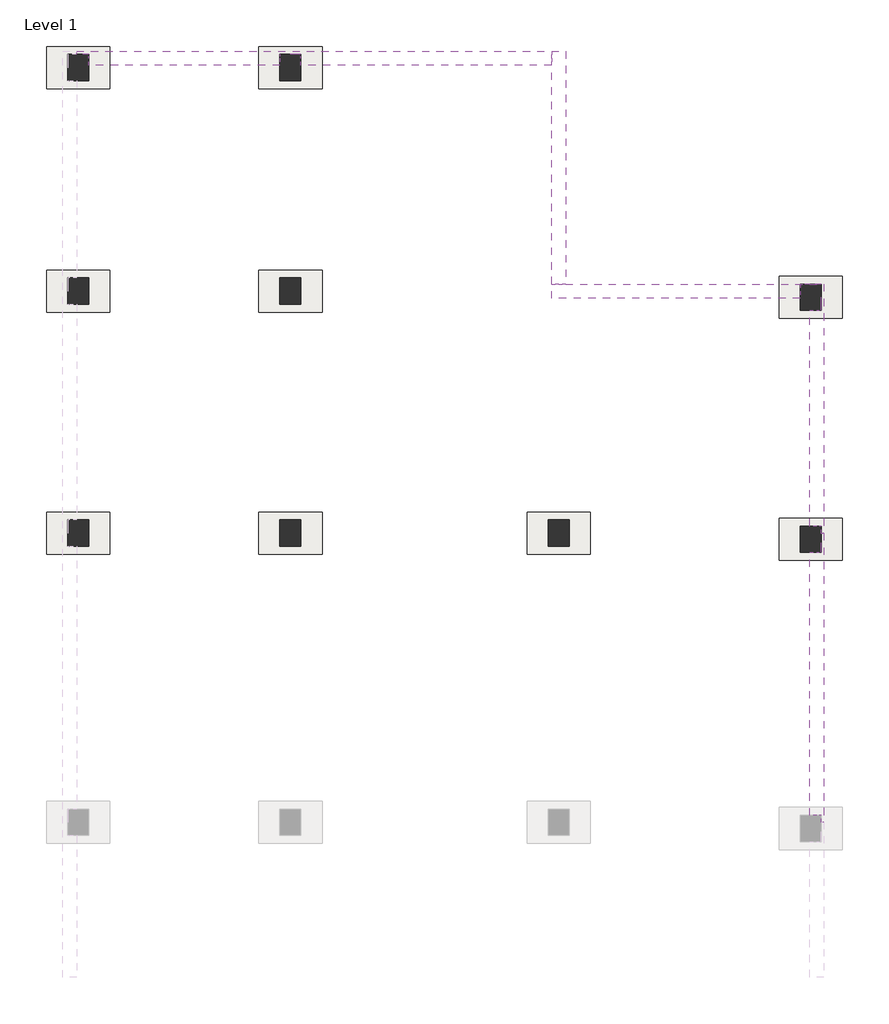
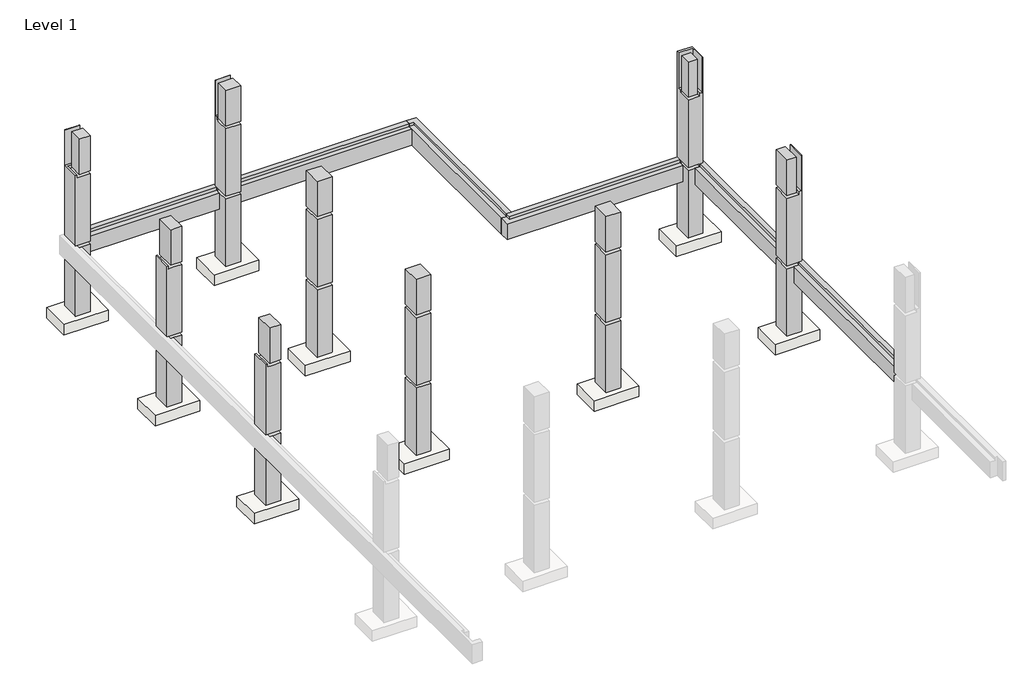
# One storey, part 2 of 2: 9 columns, 9 slabs, 5 beams.
"""IFC4 building model written with IfcOpenShell, lengths in millimetres."""

from ifc_helpers import new_model, si_unit, frame, origin, origin_with_axes, place, context, project, spatial, polyline, outline, extrude, faceted_brep, transform, mapped, element, save
from components import slab_05425d98

model = new_model("IFC4")

# Units and contexts
model_context = context("Model", 3, world=origin())
ifc_project = project(units=[si_unit("LENGTHUNIT", "METRE", prefix="MILLI")], contexts=[model_context])

# Site, building, storey
site = spatial("IfcSite", under=ifc_project)
building = spatial("IfcBuilding", under=site)
storey = spatial("IfcBuildingStorey", under=building, Name="Level 1", Elevation=0.0)

# Beams
placement = place(None, origin())
element("IfcBeam", 1, ObjectType="Concrete-Rectangular Beam : 16 x 32", at=placement, inside=storey, context=model_context, shape_type="Brep", body=[
    faceted_brep([(5678.6233565, -4041.2239291, 3048.0), (5678.6233565, 4340.7760709, 3048.0), (5601.20363, 4340.7760709, 3048.0), (5601.20363, 3780.7563444, 3048.0), (5475.4233565, 3780.7563444, 3048.0), (5475.4233565, -3839.2436556, 3048.0), (5601.20363, -3839.2436556, 3048.0), (5601.20363, -4041.2239291, 3048.0), (5678.6233565, -4041.2239291, 2235.2), (5678.6233565, 4340.7760709, 2235.2), (5601.20363, -4041.2239291, 2235.2), (5601.20363, -3839.2436556, 2235.2), (5272.2233565, -3839.2436556, 2235.2), (5272.2233565, 3780.7563444, 2235.2), (5601.20363, 3780.7563444, 2235.2), (5601.20363, 4340.7760709, 2235.2), (5272.2233565, -3839.2436556, 2921.0), (5272.2233565, 3780.7563444, 2921.0), (5475.4233565, 3780.7563444, 2921.0), (5475.4233565, -3839.2436556, 2921.0)], [[[0, 1, 2, 3, 4, 5, 6, 7]], [[1, 0, 8, 9]], [[9, 8, 10, 11, 12, 13, 14, 15]], [[13, 12, 16, 17]], [[1, 9, 15, 2]], [[8, 0, 7, 10]], [[14, 13, 17, 18, 4, 3]], [[12, 11, 6, 5, 19, 16]], [[19, 18, 17, 16]], [[18, 19, 5, 4]], [[14, 3, 2, 15]], [[6, 11, 10, 7]]]),
])
element("IfcBeam", 2, ObjectType="Concrete-Rectangular Beam : 16 x 32", at=placement, inside=storey, context=model_context, shape_type="Brep", body=[
    faceted_brep([(5678.6233565, 4340.7760709, 3048.0), (5678.6233565, 11554.3760709, 3048.0), (5272.2233565, 11554.3760709, 3048.0), (5272.2233565, 11553.1563444, 3048.0), (5601.20363, 11553.1563444, 3048.0), (5601.20363, 10791.1563444, 3048.0), (5475.4233565, 10791.1563444, 3048.0), (5475.4233565, 4542.7563444, 3048.0), (5601.20363, 4542.7563444, 3048.0), (5601.20363, 4340.7760709, 3048.0), (5678.6233565, 4340.7760709, 2235.2), (5678.6233565, 11554.3760709, 2235.2), (5272.2233565, 10791.1563444, 2235.2), (5601.20363, 10791.1563444, 2235.2), (5601.20363, 11553.1563444, 2235.2), (5272.2233565, 11553.1563444, 2235.2), (5272.2233565, 11554.3760709, 2235.2), (5601.20363, 4340.7760709, 2235.2), (5601.20363, 4542.7563444, 2235.2), (5272.2233565, 4542.7563444, 2235.2), (5272.2233565, 4542.7563444, 2921.0), (5272.2233565, 10791.1563444, 2921.0), (5475.4233565, 10791.1563444, 2921.0), (5475.4233565, 4542.7563444, 2921.0)], [[[0, 1, 2, 3, 4, 5, 6, 7, 8, 9]], [[0, 10, 11, 1]], [[12, 13, 14, 15, 16, 11, 10, 17, 18, 19]], [[12, 19, 20, 21]], [[10, 0, 9, 17]], [[13, 12, 21, 22, 6, 5]], [[19, 18, 8, 7, 23, 20]], [[23, 22, 21, 20]], [[22, 23, 7, 6]], [[2, 1, 11, 16]], [[13, 5, 4, 14]], [[14, 4, 3, 15]], [[2, 16, 15, 3]], [[8, 18, 17, 9]]]),
])
element("IfcBeam", 3, ObjectType="Concrete-Rectangular Beam : 16 x 32", at=placement, inside=storey, context=model_context, shape_type="Brep", body=[
    faceted_brep([(5272.2233565, 11553.1563444, 3048.0), (5272.2233565, 11554.3760709, 3048.0), (-1802.7923576, 11554.3760709, 3048.0), (-2005.9923576, 11554.3760709, 3048.0), (-2005.9923576, 11351.1760709, 3048.0), (4991.60363, 11351.1760709, 3048.0), (4991.60363, 11553.1563444, 3048.0), (5272.2233565, 11554.3760709, 2235.2), (-1802.7923576, 11554.3760709, 2235.2), (-2209.1923576, 11554.3760709, 2235.2), (-2209.1923576, 11554.3760709, 2921.0), (-2005.9923576, 11554.3760709, 2921.0), (4991.60363, 11553.1563444, 2235.2), (4991.60363, 11147.9760709, 2235.2), (-2209.1923576, 11147.9760709, 2235.2), (5272.2233565, 11553.1563444, 2235.2), (4991.60363, 11147.9760709, 2921.0), (-2209.1923576, 11147.9760709, 2921.0), (4991.60363, 11351.1760709, 2921.0), (-2005.9923576, 11351.1760709, 2921.0)], [[[0, 1, 2, 3, 4, 5, 6]], [[7, 8, 9, 10, 11, 3, 2, 1]], [[12, 13, 14, 9, 8, 7, 15]], [[14, 13, 16, 17]], [[7, 1, 0, 15]], [[13, 12, 6, 5, 18, 16]], [[9, 14, 17, 10]], [[18, 19, 11, 10, 17, 16]], [[19, 4, 3, 11]], [[4, 19, 18, 5]], [[6, 12, 15, 0]]]),
])
element("IfcBeam", 4, ObjectType="Concrete-Rectangular Beam : 16 x 32", at=placement, inside=storey, context=model_context, shape_type="Brep", body=[
    faceted_brep([(-1802.7923576, 18300.6217357, 3048.0), (-2209.1923576, 18300.6217357, 3048.0), (-2209.1923576, 18097.4217357, 3048.0), (-2005.9923576, 18097.4217357, 3048.0), (-2005.9923576, 11554.3760709, 3048.0), (-1802.7923576, 11554.3760709, 3048.0), (-1802.7923576, 11554.3760709, 2235.2), (-1802.7923576, 18300.6217357, 2235.2), (-2209.1923576, 11554.3760709, 2235.2), (-2209.1923576, 17894.2217357, 2235.2), (-2209.1923576, 18300.6217357, 2235.2), (-2209.1923576, 11554.3760709, 2921.0), (-2209.1923576, 17894.2217357, 2921.0), (-2209.1923576, 18097.4217357, 2921.0), (-2005.9923576, 11554.3760709, 2921.0), (-2005.9923576, 18097.4217357, 2921.0)], [[[0, 1, 2, 3, 4, 5]], [[5, 6, 7, 0]], [[6, 8, 9, 10, 7]], [[1, 10, 9, 8, 11, 12, 13, 2]], [[6, 5, 4, 14, 11, 8]], [[1, 0, 7, 10]], [[14, 15, 13, 12, 11]], [[15, 3, 2, 13]], [[3, 15, 14, 4]]]),
])
element("IfcBeam", 5, ObjectType="Concrete-Rectangular Beam : 16 x 32", at=placement, inside=storey, context=model_context, shape_type="Brep", body=[
    faceted_brep([(-15975.9923576, 18300.6217357, 3048.0), (-15975.9923576, 18210.7872446, 3048.0), (-15627.2047678, 18210.7872446, 3048.0), (-15627.2047678, 18097.4217357, 3048.0), (-10083.1923576, 18097.4217357, 3048.0), (-10083.1923576, 18210.7872446, 3048.0), (-9473.5923576, 18210.7872446, 3048.0), (-9473.5923576, 18097.4217357, 3048.0), (-2209.1923576, 18097.4217357, 3048.0), (-2209.1923576, 18300.6217357, 3048.0), (-2209.1923576, 18300.6217357, 2235.2), (-15975.9923576, 18300.6217357, 2235.2), (-15627.2047678, 17894.2217357, 2235.2), (-15627.2047678, 18210.7872446, 2235.2), (-15975.9923576, 18210.7872446, 2235.2), (-2209.1923576, 17894.2217357, 2235.2), (-9473.5923576, 17894.2217357, 2235.2), (-9473.5923576, 18210.7872446, 2235.2), (-10083.1923576, 18210.7872446, 2235.2), (-10083.1923576, 17894.2217357, 2235.2), (-10083.1923576, 17894.2217357, 2921.0), (-15627.2047678, 17894.2217357, 2921.0), (-15627.2047678, 18097.4217357, 2921.0), (-2209.1923576, 18097.4217357, 2921.0), (-2209.1923576, 17894.2217357, 2921.0), (-9473.5923576, 17894.2217357, 2921.0), (-9473.5923576, 18097.4217357, 2921.0), (-10083.1923576, 18097.4217357, 2921.0)], [[[0, 1, 2, 3, 4, 5, 6, 7, 8, 9]], [[9, 10, 11, 0]], [[12, 13, 14, 11, 10, 15, 16, 17, 18, 19]], [[12, 19, 20, 21]], [[0, 11, 14, 1]], [[13, 12, 21, 22, 3, 2]], [[10, 9, 8, 23, 24, 15]], [[17, 16, 25, 26, 7, 6]], [[19, 18, 5, 4, 27, 20]], [[16, 15, 24, 25]], [[27, 22, 21, 20]], [[22, 27, 4, 3]], [[23, 26, 25, 24]], [[26, 23, 8, 7]], [[13, 2, 1, 14]], [[5, 18, 17, 6]]]),
])

# Columns
element("IfcColumn", 6, ObjectType="Concrete-Rectangular-Column : 24 x 30", at=placement, inside=storey, context=model_context, shape_type="Brep", body=[
    faceted_brep([(-15627.2047678, 18210.7872446, 0.0), (-15627.2047678, 17448.7872446, 0.0), (-16236.8047678, 17448.7872446, 0.0), (-16236.8047678, 18210.7872446, 0.0), (-16236.8047678, 17448.7872446, 6096.0), (-16236.8047678, 18199.0217357, 6096.0), (-16236.8047678, 18199.0217357, 7620.0), (-16236.8047678, 18210.7872446, 7620.0), (-15627.2047678, 18210.7872446, 7620.0), (-16179.1923576, 18097.4217357, 2921.0), (-16179.1923576, 17448.7872446, 2921.0), (-15627.2047678, 17448.7872446, 2921.0), (-15627.2047678, 18097.4217357, 2921.0), (-16179.1923576, 18097.4217357, 3048.0), (-15627.2047678, 18097.4217357, 3048.0), (-15627.2047678, 17448.7872446, 3048.0), (-16179.1923576, 17448.7872446, 3048.0), (-16179.1923576, 18097.4217357, 5969.0), (-16179.1923576, 17448.7872446, 5969.0), (-15627.2047678, 17448.7872446, 5969.0), (-15627.2047678, 18097.4217357, 5969.0), (-16179.1923576, 18097.4217357, 6096.0), (-15627.2047678, 18097.4217357, 6096.0), (-16179.1923576, 17448.7872446, 6096.0), (-15627.2047678, 18199.0217357, 6096.0), (-15627.2047678, 18199.0217357, 7620.0)], [[[0, 1, 2, 3]], [[3, 2, 4, 5, 6, 7]], [[0, 3, 7, 8]], [[9, 10, 11, 12]], [[13, 14, 15, 16]], [[13, 9, 12, 14]], [[9, 13, 16, 10]], [[17, 18, 19, 20]], [[21, 17, 20, 22]], [[17, 21, 23, 18]], [[24, 25, 6, 5]], [[22, 24, 5, 4, 23, 21]], [[1, 0, 8, 25, 24, 22, 20, 19, 15, 14, 12, 11]], [[2, 1, 11, 10, 16, 15, 19, 18, 23, 4]], [[8, 7, 6, 25]]]),
    faceted_brep([(-15627.2047678, 17448.7872446, 7620.0), (-15627.2047678, 17448.7872446, 6096.0), (-15627.2047678, 17995.8217357, 6096.0), (-15627.2047678, 17995.8217357, 7620.0), (-16077.5923576, 17448.7872446, 7620.0), (-16077.5923576, 17448.7872446, 6096.0), (-16077.5923576, 17995.8217357, 7620.0), (-16077.5923576, 17995.8217357, 6096.0)], [[[0, 1, 2, 3]], [[1, 0, 4, 5]], [[0, 3, 6, 4]], [[2, 1, 5, 7]], [[3, 2, 7, 6]], [[5, 4, 6, 7]]]),
])
element("IfcColumn", 7, ObjectType="Concrete-Rectangular-Column : 24 x 30", at=placement, inside=storey, context=model_context, shape_type="Brep", body=[
    faceted_brep([(-15627.2047678, 11732.1760709, 0.0), (-15627.2047678, 10970.1760709, 0.0), (-16236.8047678, 10970.1760709, 0.0), (-16236.8047678, 11732.1760709, 0.0), (-16236.8047678, 10970.1760709, 2235.2), (-16236.8047678, 10970.1760709, 3048.0), (-16236.8047678, 10970.1760709, 5283.2), (-16236.8047678, 10970.1760709, 6096.0), (-16236.8047678, 11732.1760709, 6096.0), (-16236.8047678, 11732.1760709, 5283.2), (-16236.8047678, 11732.1760709, 3048.0), (-16236.8047678, 11732.1760709, 2235.2), (-16179.1923576, 11732.1760709, 2921.0), (-16179.1923576, 10970.1760709, 2921.0), (-15975.9923576, 10970.1760709, 2921.0), (-15627.2047678, 10970.1760709, 2921.0), (-15627.2047678, 11732.1760709, 2921.0), (-15975.9923576, 11732.1760709, 2921.0), (-16179.1923576, 10970.1760709, 3048.0), (-16179.1923576, 11732.1760709, 3048.0), (-15627.2047678, 11732.1760709, 3048.0), (-15627.2047678, 10970.1760709, 3048.0), (-16179.1923576, 11732.1760709, 5969.0), (-16179.1923576, 10970.1760709, 5969.0), (-15975.9923576, 10970.1760709, 5969.0), (-15627.2047678, 10970.1760709, 5969.0), (-15627.2047678, 11732.1760709, 5969.0), (-15975.9923576, 11732.1760709, 5969.0), (-16179.1923576, 11732.1760709, 6096.0), (-16179.1923576, 10970.1760709, 6096.0)], [[[0, 1, 2, 3]], [[3, 2, 4, 5, 6, 7, 8, 9, 10, 11]], [[12, 13, 14, 15, 16, 17]], [[18, 19, 20, 21]], [[13, 12, 19, 18]], [[1, 0, 16, 15]], [[22, 23, 24, 25, 26, 27]], [[23, 22, 28, 29]], [[21, 20, 26, 25]], [[7, 29, 28, 8]], [[2, 1, 15, 14, 13, 18, 21, 25, 24, 23, 29, 7, 6, 5, 4]], [[0, 3, 11, 10, 9, 8, 28, 22, 27, 26, 20, 19, 12, 17, 16]]]),
    faceted_brep([(-15627.2047678, 11732.1760709, 7620.0), (-15627.2047678, 10970.1760709, 7620.0), (-15627.2047678, 10970.1760709, 6096.0), (-15627.2047678, 11732.1760709, 6096.0), (-16077.5923576, 10970.1760709, 7620.0), (-16077.5923576, 10970.1760709, 6096.0), (-16077.5923576, 11732.1760709, 6096.0), (-16077.5923576, 11732.1760709, 7620.0)], [[[0, 1, 2, 3]], [[2, 1, 4, 5]], [[0, 3, 6, 7]], [[1, 0, 7, 4]], [[3, 2, 5, 6]], [[5, 4, 7, 6]]]),
])
element("IfcColumn", 8, ObjectType="Concrete-Rectangular-Column : 24 x 30", at=placement, inside=storey, context=model_context, shape_type="Brep", body=[
    faceted_brep([(-15627.2047678, 4721.7760709, 0.0), (-15627.2047678, 3959.7760709, 0.0), (-16236.8047678, 3959.7760709, 0.0), (-16236.8047678, 4721.7760709, 0.0), (-16236.8047678, 3959.7760709, 2235.2), (-16236.8047678, 3959.7760709, 3048.0), (-16236.8047678, 3959.7760709, 5283.2), (-16236.8047678, 3959.7760709, 6096.0), (-16236.8047678, 4721.7760709, 6096.0), (-16236.8047678, 4721.7760709, 5283.2), (-16236.8047678, 4721.7760709, 3048.0), (-16236.8047678, 4721.7760709, 2235.2), (-16179.1923576, 4721.7760709, 2921.0), (-16179.1923576, 3959.7760709, 2921.0), (-15975.9923576, 3959.7760709, 2921.0), (-15627.2047678, 3959.7760709, 2921.0), (-15627.2047678, 4721.7760709, 2921.0), (-15975.9923576, 4721.7760709, 2921.0), (-16179.1923576, 3959.7760709, 3048.0), (-16179.1923576, 4721.7760709, 3048.0), (-15627.2047678, 4721.7760709, 3048.0), (-15627.2047678, 3959.7760709, 3048.0), (-16179.1923576, 4721.7760709, 5969.0), (-16179.1923576, 3959.7760709, 5969.0), (-15975.9923576, 3959.7760709, 5969.0), (-15627.2047678, 3959.7760709, 5969.0), (-15627.2047678, 4721.7760709, 5969.0), (-15975.9923576, 4721.7760709, 5969.0), (-16179.1923576, 4721.7760709, 6096.0), (-16179.1923576, 3959.7760709, 6096.0)], [[[0, 1, 2, 3]], [[3, 2, 4, 5, 6, 7, 8, 9, 10, 11]], [[12, 13, 14, 15, 16, 17]], [[18, 19, 20, 21]], [[13, 12, 19, 18]], [[1, 0, 16, 15]], [[22, 23, 24, 25, 26, 27]], [[23, 22, 28, 29]], [[21, 20, 26, 25]], [[7, 29, 28, 8]], [[2, 1, 15, 14, 13, 18, 21, 25, 24, 23, 29, 7, 6, 5, 4]], [[0, 3, 11, 10, 9, 8, 28, 22, 27, 26, 20, 19, 12, 17, 16]]]),
    faceted_brep([(-15627.2047678, 4721.7760709, 7620.0), (-15627.2047678, 3959.7760709, 7620.0), (-15627.2047678, 3959.7760709, 6096.0), (-15627.2047678, 4721.7760709, 6096.0), (-16077.5923576, 3959.7760709, 7620.0), (-16077.5923576, 3959.7760709, 6096.0), (-16077.5923576, 4721.7760709, 6096.0), (-16077.5923576, 4721.7760709, 7620.0)], [[[0, 1, 2, 3]], [[2, 1, 4, 5]], [[0, 3, 6, 7]], [[1, 0, 7, 4]], [[3, 2, 5, 6]], [[5, 4, 7, 6]]]),
])
element("IfcColumn", 9, ObjectType="Concrete-Rectangular-Column : 24 x 30", at=placement, inside=storey, context=model_context, shape_type="Brep", body=[
    faceted_brep([(-9473.5923576, 18210.7872446, 0.0), (-9473.5923576, 17448.7872446, 0.0), (-10083.1923576, 17448.7872446, 0.0), (-10083.1923576, 18210.7872446, 0.0), (-10083.1923576, 18210.7872446, 2235.2), (-10083.1923576, 18210.7872446, 3048.0), (-10083.1923576, 18210.7872446, 5283.2), (-10083.1923576, 18210.7872446, 6096.0), (-10083.1923576, 18210.7872446, 7620.0), (-9473.5923576, 18210.7872446, 7620.0), (-9473.5923576, 18210.7872446, 6096.0), (-9473.5923576, 18210.7872446, 5283.2), (-9473.5923576, 18210.7872446, 3048.0), (-9473.5923576, 18210.7872446, 2235.2), (-9473.5923576, 18097.4217357, 2921.0), (-10083.1923576, 18097.4217357, 2921.0), (-10083.1923576, 17894.2217357, 2921.0), (-10083.1923576, 17448.7872446, 2921.0), (-9473.5923576, 17448.7872446, 2921.0), (-9473.5923576, 17894.2217357, 2921.0), (-10083.1923576, 18097.4217357, 3048.0), (-9473.5923576, 18097.4217357, 3048.0), (-9473.5923576, 17448.7872446, 3048.0), (-10083.1923576, 17448.7872446, 3048.0), (-9473.5923576, 18097.4217357, 5969.0), (-10083.1923576, 18097.4217357, 5969.0), (-10083.1923576, 17894.2217357, 5969.0), (-10083.1923576, 17448.7872446, 5969.0), (-9473.5923576, 17448.7872446, 5969.0), (-9473.5923576, 17894.2217357, 5969.0), (-9473.5923576, 18097.4217357, 6096.0), (-10083.1923576, 18097.4217357, 6096.0), (-10083.1923576, 18199.0217357, 6096.0), (-9473.5923576, 18199.0217357, 6096.0), (-9473.5923576, 18199.0217357, 7620.0), (-10083.1923576, 18199.0217357, 7620.0)], [[[0, 1, 2, 3]], [[0, 3, 4, 5, 6, 7, 8, 9, 10, 11, 12, 13]], [[14, 15, 16, 17, 18, 19]], [[20, 21, 22, 23]], [[15, 14, 21, 20]], [[2, 1, 18, 17]], [[24, 25, 26, 27, 28, 29]], [[25, 24, 30, 31]], [[23, 22, 28, 27]], [[32, 33, 34, 35]], [[33, 32, 31, 30]], [[1, 0, 13, 12, 11, 10, 9, 34, 33, 30, 24, 29, 28, 22, 21, 14, 19, 18]], [[3, 2, 17, 16, 15, 20, 23, 27, 26, 25, 31, 32, 35, 8, 7, 6, 5, 4]], [[9, 8, 35, 34]]]),
    faceted_brep([(-9473.5923576, 17448.7872446, 7620.0), (-9473.5923576, 17448.7872446, 6096.0), (-9473.5923576, 17995.8217357, 6096.0), (-9473.5923576, 17995.8217357, 7620.0), (-10083.1923576, 17448.7872446, 7620.0), (-10083.1923576, 17448.7872446, 6096.0), (-10083.1923576, 17995.8217357, 7620.0), (-10083.1923576, 17995.8217357, 6096.0)], [[[0, 1, 2, 3]], [[0, 4, 5, 1]], [[5, 4, 6, 7]], [[4, 0, 3, 6]], [[1, 5, 7, 2]], [[3, 2, 7, 6]]]),
])
element("IfcColumn", 10, ObjectType="Concrete-Rectangular-Column : 24 x 30", at=placement, inside=storey, context=model_context, shape_type="SweptSolid", body=[
    extrude(outline(polyline([(-9473.5923576, 11732.1760709), (-9473.5923576, 10970.1760709), (-10083.1923576, 10970.1760709), (-10083.1923576, 11732.1760709), (-9473.5923576, 11732.1760709)])), origin_with_axes(), (0.0, 0.0, 1.0), 2921.0),
    extrude(outline(polyline([(-9473.5923576, 11732.1760709), (-9473.5923576, 10970.1760709), (-10083.1923576, 10970.1760709), (-10083.1923576, 11732.1760709), (-9473.5923576, 11732.1760709)])), frame((0.0, 0.0, 6096.0), z_axis=(0.0, 0.0, 1.0), x_axis=(1.0, 0.0, 0.0)), (0.0, 0.0, 1.0), 1524.0),
    extrude(outline(polyline([(-9473.5923576, 11732.1760709), (-9473.5923576, 10970.1760709), (-10083.1923576, 10970.1760709), (-10083.1923576, 11732.1760709), (-9473.5923576, 11732.1760709)])), frame((0.0, 0.0, 3048.0), z_axis=(0.0, 0.0, 1.0), x_axis=(1.0, 0.0, 0.0)), (0.0, 0.0, 1.0), 2921.0),
])
element("IfcColumn", 11, ObjectType="Concrete-Rectangular-Column : 24 x 30", at=placement, inside=storey, context=model_context, shape_type="Brep", body=[
    faceted_brep([(5601.20363, 11553.1563444, 0.0), (5601.20363, 10791.1563444, 0.0), (4991.60363, 10791.1563444, 0.0), (4991.60363, 11553.1563444, 0.0), (5601.20363, 11553.1563444, 7620.0), (5601.20363, 10791.1563444, 7620.0), (4991.60363, 11553.1563444, 7620.0), (4991.60363, 11452.7760709, 7620.0), (5577.0233565, 11452.7760709, 7620.0), (5577.0233565, 11249.5760709, 7620.0), (5577.0233565, 10791.1563444, 7620.0), (5475.4233565, 10791.1563444, 2921.0), (5475.4233565, 11351.1760709, 2921.0), (4991.60363, 11351.1760709, 2921.0), (4991.60363, 10791.1563444, 2921.0), (4991.60363, 11351.1760709, 3048.0), (5475.4233565, 11351.1760709, 3048.0), (5475.4233565, 10791.1563444, 3048.0), (4991.60363, 10791.1563444, 3048.0), (5475.4233565, 10791.1563444, 5969.0), (5475.4233565, 11351.1760709, 5969.0), (4991.60363, 11351.1760709, 5969.0), (4991.60363, 10791.1563444, 5969.0), (5475.4233565, 11351.1760709, 6096.0), (4991.60363, 11351.1760709, 6096.0), (5475.4233565, 10791.1563444, 6096.0), (4991.60363, 11452.7760709, 6096.0), (5577.0233565, 11452.7760709, 6096.0), (5577.0233565, 10791.1563444, 6096.0), (5577.0233565, 11249.5760709, 6096.0)], [[[0, 1, 2, 3]], [[1, 0, 4, 5]], [[0, 3, 6, 4]], [[5, 4, 6, 7, 8, 9, 10]], [[11, 12, 13, 14]], [[15, 16, 17, 18]], [[12, 16, 15, 13]], [[16, 12, 11, 17]], [[19, 20, 21, 22]], [[20, 23, 24, 21]], [[25, 23, 20, 19]], [[26, 27, 8, 7]], [[27, 26, 24, 23, 25, 28, 29]], [[3, 2, 14, 13, 15, 18, 22, 21, 24, 26, 7, 6]], [[8, 27, 29, 28, 10, 9]], [[2, 1, 5, 10, 28, 25, 19, 22, 18, 17, 11, 14]]]),
    faceted_brep([(4991.60363, 10791.1563444, 7620.0), (4991.60363, 10791.1563444, 6096.0), (5373.8233565, 10791.1563444, 6096.0), (5373.8233565, 10791.1563444, 7620.0), (4991.60363, 11249.5760709, 7620.0), (4991.60363, 11249.5760709, 6096.0), (5373.8233565, 11249.5760709, 6096.0), (5373.8233565, 11249.5760709, 7620.0)], [[[0, 1, 2, 3]], [[1, 0, 4, 5]], [[1, 5, 6, 2]], [[5, 4, 7, 6]], [[3, 2, 6, 7]], [[4, 0, 3, 7]]]),
])
element("IfcColumn", 12, ObjectType="Concrete-Rectangular-Column : 24 x 30", at=placement, inside=storey, context=model_context, shape_type="SweptSolid", body=[
    extrude(outline(polyline([(-9473.5923576, 4721.7760709), (-9473.5923576, 3959.7760709), (-10083.1923576, 3959.7760709), (-10083.1923576, 4721.7760709), (-9473.5923576, 4721.7760709)])), origin_with_axes(), (0.0, 0.0, 1.0), 2921.0),
    extrude(outline(polyline([(-9473.5923576, 4721.7760709), (-9473.5923576, 3959.7760709), (-10083.1923576, 3959.7760709), (-10083.1923576, 4721.7760709), (-9473.5923576, 4721.7760709)])), frame((0.0, 0.0, 6096.0), z_axis=(0.0, 0.0, 1.0), x_axis=(1.0, 0.0, 0.0)), (0.0, 0.0, 1.0), 1524.0),
    extrude(outline(polyline([(-9473.5923576, 4721.7760709), (-9473.5923576, 3959.7760709), (-10083.1923576, 3959.7760709), (-10083.1923576, 4721.7760709), (-9473.5923576, 4721.7760709)])), frame((0.0, 0.0, 3048.0), z_axis=(0.0, 0.0, 1.0), x_axis=(1.0, 0.0, 0.0)), (0.0, 0.0, 1.0), 2921.0),
])
element("IfcColumn", 13, ObjectType="Concrete-Rectangular-Column : 24 x 30", at=placement, inside=storey, context=model_context, shape_type="SweptSolid", body=[
    extrude(outline(polyline([(-1701.1923576, 4721.7760709), (-1701.1923576, 3959.7760709), (-2310.7923576, 3959.7760709), (-2310.7923576, 4721.7760709), (-1701.1923576, 4721.7760709)])), origin_with_axes(), (0.0, 0.0, 1.0), 2921.0),
    extrude(outline(polyline([(-1701.1923576, 4721.7760709), (-1701.1923576, 3959.7760709), (-2310.7923576, 3959.7760709), (-2310.7923576, 4721.7760709), (-1701.1923576, 4721.7760709)])), frame((0.0, 0.0, 6096.0), z_axis=(0.0, 0.0, 1.0), x_axis=(1.0, 0.0, 0.0)), (0.0, 0.0, 1.0), 1524.0),
    extrude(outline(polyline([(-1701.1923576, 4721.7760709), (-1701.1923576, 3959.7760709), (-2310.7923576, 3959.7760709), (-2310.7923576, 4721.7760709), (-1701.1923576, 4721.7760709)])), frame((0.0, 0.0, 3048.0), z_axis=(0.0, 0.0, 1.0), x_axis=(1.0, 0.0, 0.0)), (0.0, 0.0, 1.0), 2921.0),
])
element("IfcColumn", 14, ObjectType="Concrete-Rectangular-Column : 24 x 30", at=placement, inside=storey, context=model_context, shape_type="Brep", body=[
    faceted_brep([(5601.20363, 4542.7563444, 0.0), (5601.20363, 3780.7563444, 0.0), (4991.60363, 3780.7563444, 0.0), (4991.60363, 4542.7563444, 0.0), (5601.20363, 4542.7563444, 7620.0), (5601.20363, 3780.7563444, 7620.0), (5577.0233565, 4542.7563444, 7620.0), (5577.0233565, 3780.7563444, 7620.0), (5475.4233565, 3780.7563444, 2921.0), (5475.4233565, 4340.7760709, 2921.0), (5475.4233565, 4542.7563444, 2921.0), (4991.60363, 4542.7563444, 2921.0), (4991.60363, 3780.7563444, 2921.0), (5475.4233565, 4542.7563444, 3048.0), (5475.4233565, 4340.7760709, 3048.0), (5475.4233565, 3780.7563444, 3048.0), (4991.60363, 3780.7563444, 3048.0), (4991.60363, 4542.7563444, 3048.0), (5475.4233565, 3780.7563444, 5969.0), (5475.4233565, 4340.7760709, 5969.0), (5475.4233565, 4542.7563444, 5969.0), (4991.60363, 4542.7563444, 5969.0), (4991.60363, 3780.7563444, 5969.0), (5475.4233565, 4340.7760709, 6096.0), (5475.4233565, 4542.7563444, 6096.0), (5475.4233565, 3780.7563444, 6096.0), (5577.0233565, 4542.7563444, 6096.0), (5577.0233565, 3780.7563444, 6096.0)], [[[0, 1, 2, 3]], [[1, 0, 4, 5]], [[5, 4, 6, 7]], [[8, 9, 10, 11, 12]], [[13, 14, 15, 16, 17]], [[9, 14, 13, 10]], [[14, 9, 8, 15]], [[3, 2, 12, 11]], [[18, 19, 20, 21, 22]], [[19, 23, 24, 20]], [[23, 19, 18, 25]], [[17, 16, 22, 21]], [[26, 27, 7, 6]], [[27, 26, 24, 23, 25]], [[2, 1, 5, 7, 27, 25, 18, 22, 16, 15, 8, 12]], [[0, 3, 11, 10, 13, 17, 21, 20, 24, 26, 6, 4]]]),
    faceted_brep([(4991.60363, 3780.7563444, 7620.0), (4991.60363, 3780.7563444, 6096.0), (5373.8233565, 3780.7563444, 6096.0), (5373.8233565, 3780.7563444, 7620.0), (4991.60363, 4542.7563444, 7620.0), (4991.60363, 4542.7563444, 6096.0), (5373.8233565, 4542.7563444, 7620.0), (5373.8233565, 4542.7563444, 6096.0)], [[[0, 1, 2, 3]], [[0, 4, 5, 1]], [[5, 4, 6, 7]], [[1, 5, 7, 2]], [[3, 2, 7, 6]], [[4, 0, 3, 6]]]),
])

# Slabs
slab_shape = slab_05425d98(model_context)
element("IfcSlab", 15, ObjectType="Footing-Rectangular : 72\" x 48\" x 18\"", at=placement, inside=storey, context=model_context, shape_type="MappedRepresentation", body=[
    mapped(slab_shape, transform((-15932.0047678, 17829.7872446, 0.0), x_axis=(1.0, 0.0, 0.0), y_axis=(0.0, 1.0, 0.0), z_axis=(0.0, 0.0, 1.0))),
])
element("IfcSlab", 16, ObjectType="Footing-Rectangular : 72\" x 48\" x 18\"", at=placement, inside=storey, context=model_context, shape_type="MappedRepresentation", body=[
    mapped(slab_shape, transform((-15932.0047678, 11351.1760709, 0.0), x_axis=(1.0, 0.0, 0.0), y_axis=(0.0, 1.0, 0.0), z_axis=(0.0, 0.0, 1.0))),
])
element("IfcSlab", 17, ObjectType="Footing-Rectangular : 72\" x 48\" x 18\"", at=placement, inside=storey, context=model_context, shape_type="MappedRepresentation", body=[
    mapped(slab_shape, transform((-15932.0047678, 4340.7760709, 0.0), x_axis=(1.0, 0.0, 0.0), y_axis=(0.0, 1.0, 0.0), z_axis=(0.0, 0.0, 1.0))),
])
element("IfcSlab", 18, ObjectType="Footing-Rectangular : 72\" x 48\" x 18\"", at=placement, inside=storey, context=model_context, shape_type="MappedRepresentation", body=[
    mapped(slab_shape, transform((-9778.3923576, 17829.7872446, 0.0), x_axis=(1.0, 0.0, 0.0), y_axis=(0.0, 1.0, 0.0), z_axis=(0.0, 0.0, 1.0))),
])
element("IfcSlab", 19, ObjectType="Footing-Rectangular : 72\" x 48\" x 18\"", at=placement, inside=storey, context=model_context, shape_type="MappedRepresentation", body=[
    mapped(slab_shape, transform((-9778.3923576, 11351.1760709, 0.0), x_axis=(1.0, 0.0, 0.0), y_axis=(0.0, 1.0, 0.0), z_axis=(0.0, 0.0, 1.0))),
])
element("IfcSlab", 20, ObjectType="Footing-Rectangular : 72\" x 48\" x 18\"", at=placement, inside=storey, context=model_context, shape_type="MappedRepresentation", body=[
    mapped(slab_shape, transform((5296.40363, 11172.1563444, 0.0), x_axis=(1.0, 0.0, 0.0), y_axis=(0.0, 1.0, 0.0), z_axis=(0.0, 0.0, 1.0))),
])
element("IfcSlab", 21, ObjectType="Footing-Rectangular : 72\" x 48\" x 18\"", at=placement, inside=storey, context=model_context, shape_type="MappedRepresentation", body=[
    mapped(slab_shape, transform((-9778.3923576, 4340.7760709, 0.0), x_axis=(1.0, 0.0, 0.0), y_axis=(0.0, 1.0, 0.0), z_axis=(0.0, 0.0, 1.0))),
])
element("IfcSlab", 22, ObjectType="Footing-Rectangular : 72\" x 48\" x 18\"", at=placement, inside=storey, context=model_context, shape_type="MappedRepresentation", body=[
    mapped(slab_shape, transform((-2005.9923576, 4340.7760709, 0.0), x_axis=(1.0, 0.0, 0.0), y_axis=(0.0, 1.0, 0.0), z_axis=(0.0, 0.0, 1.0))),
])
element("IfcSlab", 23, ObjectType="Footing-Rectangular : 72\" x 48\" x 18\"", at=placement, inside=storey, context=model_context, shape_type="MappedRepresentation", body=[
    mapped(slab_shape, transform((5296.40363, 4161.7563444, 0.0), x_axis=(1.0, 0.0, 0.0), y_axis=(0.0, 1.0, 0.0), z_axis=(0.0, 0.0, 1.0))),
])

save(model, "model.ifc")
